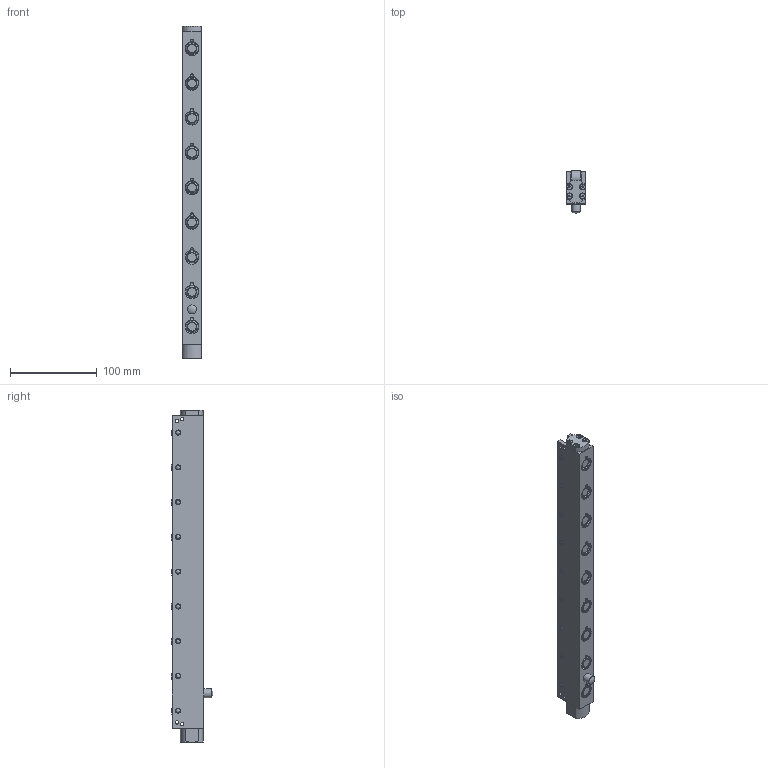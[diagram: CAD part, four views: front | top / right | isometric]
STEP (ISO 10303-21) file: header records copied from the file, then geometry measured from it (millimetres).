
FILE_DESCRIPTION(/* description */ (''),/* implementation_level */ '2;1');
FILE_NAME(/* name */ 'S:\EASCN Vault\Designs\Standard Part\DIE LIFTERS\EHR\EHR- 3D step\EHR22 - 3D step complete serie\EHR22-9.stp',/* time_stamp */ '2019-07-30T15:57:57+08:00',/* author */ ('yue.yang'),/* organization */ (''),/* preprocessor_version */ 'ST-DEVELOPER v17',/* originating_system */ 'Autodesk Inventor 2019',/* authorisation */ '');
FILE_SCHEMA (('AUTOMOTIVE_DESIGN { 1 0 10303 214 3 1 1 }'));
Length unit declared in the file: millimetre
Products named in the file (1): EHR22-9_Shrinkwrap_1
Bounding box: 21.8 x 48.05 x 382 mm (x, y, z)
Volume: 230948.1 mm3; surface area: 90615.4 mm2
Topology: 5 solids, 5 shells, 651 faces, 1870 edges, 1287 vertices
Faces by surface type: cylinder 213, plane 202, cone 118, torus 99, sphere 19
Full cylindrical faces by diameter (mm): 3 x9, 3.2 x8, 4 x8, 5 x36, 6 x18, 8.566 x1, 10 x3, 11 x9, 12.5 x18, 13.4 x9, 13.8 x9, 15.95 x18, 16 x27
Entity records: 23736 total; most frequent: CARTESIAN_POINT 5175, DIRECTION 4072, ORIENTED_EDGE 3706, EDGE_CURVE 1853, AXIS2_PLACEMENT_3D 1780, VERTEX_POINT 1287, CIRCLE 1128, EDGE_LOOP 790
